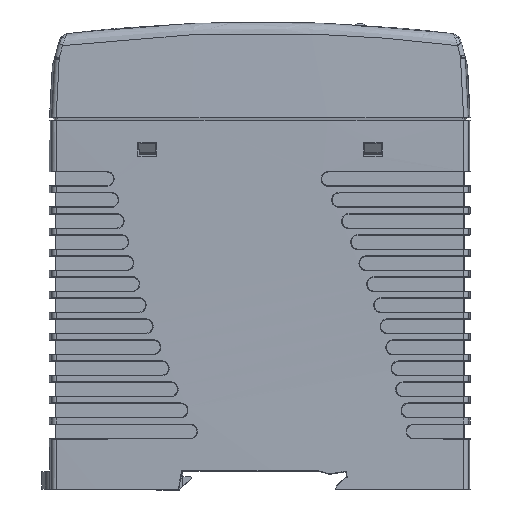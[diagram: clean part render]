
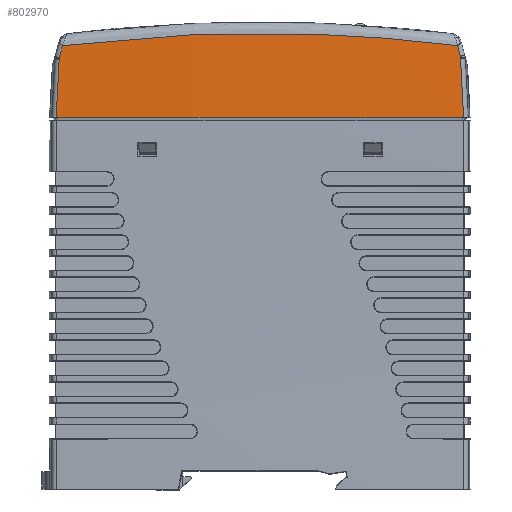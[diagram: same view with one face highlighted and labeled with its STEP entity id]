
A CAD part, left-side view. The second image highlights one B-rep face of the part: STEP entity #802970.
In plain terms, the highlighted conical face has half-angle 2 degrees and reference radius 2024.92 mm.
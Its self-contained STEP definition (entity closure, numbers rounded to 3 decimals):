
#794870=CARTESIAN_POINT('',(-26.728,42.956,52.95
));
#794880=VERTEX_POINT('',#794870);
#794910=CARTESIAN_POINT('',(-26.732,42.958,
52.823));
#794920=CARTESIAN_POINT('',(-26.73,42.955,52.872
));
#794930=CARTESIAN_POINT('',(-26.729,42.958,
52.908));
#794940=CARTESIAN_POINT('',(-26.728,42.956,52.95
));
#794950=B_SPLINE_CURVE_WITH_KNOTS('',3,(#794910,#794920,#794930,#794940)
,.UNSPECIFIED.,.F.,.F.,(4,4),(0.,1.),.UNSPECIFIED.);
#794960=CARTESIAN_POINT('',(-26.732,42.958,
52.823));
#794970=VERTEX_POINT('',#794960);
#794980=EDGE_CURVE('',#794970,#794880,#794950,.T.);
#795680=CARTESIAN_POINT('',(-26.725,42.952,53.021
));
#795690=VERTEX_POINT('',#795680);
#795740=CARTESIAN_POINT('',(-26.728,42.956,52.95
));
#795750=CARTESIAN_POINT('',(-26.727,42.955,
52.974));
#795760=CARTESIAN_POINT('',(-26.726,42.955,52.993
));
#795770=CARTESIAN_POINT('',(-26.725,42.952,53.021
));
#795780=B_SPLINE_CURVE_WITH_KNOTS('',3,(#795740,#795750,#795760,#795770)
,.UNSPECIFIED.,.F.,.F.,(4,4),(0.,1.),.UNSPECIFIED.);
#795790=EDGE_CURVE('',#794880,#795690,#795780,.T.);
#800030=CARTESIAN_POINT('',(1997.61,0.05,40.353));
#800040=DIRECTION('',(0.,0.,-1.));
#800050=DIRECTION('',(-1.,-0.022,0.));
#800060=AXIS2_PLACEMENT_3D('',#800030,#800040,#800050);
#800070=CIRCLE('',#800060,2025.233);
#800080=CARTESIAN_POINT('',(-27.154,-43.498,
40.353));
#800090=VERTEX_POINT('',#800080);
#800100=CARTESIAN_POINT('',(-27.154,43.598,40.353
));
#800110=VERTEX_POINT('',#800100);
#800120=EDGE_CURVE('',#800090,#800110,#800070,.T.);
#801690=CARTESIAN_POINT('',(-27.154,43.598,40.353
));
#801700=CARTESIAN_POINT('',(-27.107,43.526,
41.748));
#801710=CARTESIAN_POINT('',(-27.013,43.384,
44.531));
#801720=CARTESIAN_POINT('',(-26.872,43.17,
48.688));
#801730=CARTESIAN_POINT('',(-26.779,43.028,
51.447));
#801740=CARTESIAN_POINT('',(-26.732,42.958,
52.823));
#801750=B_SPLINE_CURVE_WITH_KNOTS('',3,(#801690,#801700,#801710,#801720,
#801730,#801740),.UNSPECIFIED.,.F.,.F.,(4,1,1,4),(0.,0.333,
0.667,1.),.UNSPECIFIED.);
#801760=EDGE_CURVE('',#800110,#794970,#801750,.T.);
#801830=CARTESIAN_POINT('',(1997.61,0.05,49.416));
#801840=DIRECTION('',(0.,0.,-1.));
#801850=DIRECTION('',(-1.,0.,0.));
#801860=AXIS2_PLACEMENT_3D('',#801830,#801840,#801850);
#801870=CONICAL_SURFACE('',#801860,2024.916,0.035);
#801880=ORIENTED_EDGE('',*,*,#801760,.F.);
#801890=ORIENTED_EDGE('',*,*,#794980,.F.);
#801900=ORIENTED_EDGE('',*,*,#795790,.F.);
#801910=CARTESIAN_POINT('',(-26.725,42.952,53.021
));
#801920=CARTESIAN_POINT('',(-26.724,42.948,
53.05));
#801930=CARTESIAN_POINT('',(-26.722,42.939,53.117
));
#801940=CARTESIAN_POINT('',(-26.72,42.924,
53.185));
#801950=CARTESIAN_POINT('',(-26.719,42.915,
53.223));
#801960=B_SPLINE_CURVE_WITH_KNOTS('',3,(#801910,#801920,#801930,#801940,
#801950),.UNSPECIFIED.,.F.,.F.,(4,1,4),(0.,0.432,1.),
.UNSPECIFIED.);
#801970=CARTESIAN_POINT('',(-26.719,42.915,
53.223));
#801980=VERTEX_POINT('',#801970);
#801990=EDGE_CURVE('',#795690,#801980,#801960,.T.);
#802000=ORIENTED_EDGE('',*,*,#801990,.F.);
#802010=CARTESIAN_POINT('',(-26.719,42.915,
53.223));
#802020=CARTESIAN_POINT('',(-26.711,42.839,53.508))
;
#802030=CARTESIAN_POINT('',(-26.694,42.686,54.078
));
#802040=CARTESIAN_POINT('',(-26.669,42.458,
54.933));
#802050=CARTESIAN_POINT('',(-26.652,42.306,
55.503));
#802060=CARTESIAN_POINT('',(-26.644,42.23,
55.788));
#802070=B_SPLINE_CURVE_WITH_KNOTS('',3,(#802010,#802020,#802030,#802040,
#802050,#802060),.UNSPECIFIED.,.F.,.F.,(4,1,1,4),(0.,0.333,
0.667,1.),.UNSPECIFIED.);
#802080=CARTESIAN_POINT('',(-26.644,42.23,
55.788));
#802090=VERTEX_POINT('',#802080);
#802100=EDGE_CURVE('',#801980,#802090,#802070,.T.);
#802110=ORIENTED_EDGE('',*,*,#802100,.F.);
#802120=CARTESIAN_POINT('',(-26.644,42.23,
55.788));
#802130=CARTESIAN_POINT('',(-26.758,35.234,56.673
));
#802140=CARTESIAN_POINT('',(-26.888,24.696,
57.67));
#802150=CARTESIAN_POINT('',(-26.976,10.597,58.336)
);
#802160=CARTESIAN_POINT('',(-26.998,0.001,
58.503));
#802170=CARTESIAN_POINT('',(-26.975,-10.593,
58.337));
#802180=CARTESIAN_POINT('',(-26.887,-24.684,
57.672));
#802190=CARTESIAN_POINT('',(-26.757,-35.217,
56.676));
#802200=CARTESIAN_POINT('',(-26.642,-42.209,
55.793));
#802210=B_SPLINE_CURVE_WITH_KNOTS('',3,(#802120,#802130,#802140,#802150,
#802160,#802170,#802180,#802190,#802200),.UNSPECIFIED.,.F.,.F.,(4,1,1,1,
1,1,4),(0.,0.25,0.375,0.5,
0.625,0.75,1.),.UNSPECIFIED.);
#802220=CARTESIAN_POINT('',(-26.642,-42.209,
55.793));
#802230=VERTEX_POINT('',#802220);
#802240=EDGE_CURVE('',#802090,#802230,#802210,.T.);
#802250=ORIENTED_EDGE('',*,*,#802240,.F.);
#802260=CARTESIAN_POINT('',(-26.642,-42.209,
55.793));
#802270=CARTESIAN_POINT('',(-26.648,-42.266,55.573
));
#802280=CARTESIAN_POINT('',(-26.661,-42.38,
55.133));
#802290=CARTESIAN_POINT('',(-26.681,-42.55,
54.474));
#802300=CARTESIAN_POINT('',(-26.694,-42.664,
54.034));
#802310=CARTESIAN_POINT('',(-26.7,-42.72,
53.815));
#802320=B_SPLINE_CURVE_WITH_KNOTS('',3,(#802260,#802270,#802280,#802290,
#802300,#802310),.UNSPECIFIED.,.F.,.F.,(4,1,1,4),(0.,0.333,
0.667,1.),.UNSPECIFIED.);
#802330=CARTESIAN_POINT('',(-26.7,-42.72,
53.815));
#802340=VERTEX_POINT('',#802330);
#802350=EDGE_CURVE('',#802230,#802340,#802320,.T.);
#802360=ORIENTED_EDGE('',*,*,#802350,.F.);
#802370=CARTESIAN_POINT('',(-26.7,-42.72,
53.815));
#802380=CARTESIAN_POINT('',(-26.702,-42.736,
53.753));
#802390=CARTESIAN_POINT('',(-26.704,-42.752,
53.692));
#802400=CARTESIAN_POINT('',(-26.706,-42.768,
53.631));
#802410=B_SPLINE_CURVE_WITH_KNOTS('',3,(#802370,#802380,#802390,#802400)
,.UNSPECIFIED.,.F.,.F.,(4,4),(0.,1.),.UNSPECIFIED.);
#802420=CARTESIAN_POINT('',(-26.706,-42.768,
53.631));
#802430=VERTEX_POINT('',#802420);
#802440=EDGE_CURVE('',#802340,#802430,#802410,.T.);
#802450=ORIENTED_EDGE('',*,*,#802440,.F.);
#802460=CARTESIAN_POINT('',(-26.706,-42.768,
53.631));
#802470=CARTESIAN_POINT('',(-26.706,-42.772,53.616
));
#802480=CARTESIAN_POINT('',(-26.707,-42.779,
53.586));
#802490=CARTESIAN_POINT('',(-26.708,-42.791,
53.542));
#802500=CARTESIAN_POINT('',(-26.709,-42.798,
53.512));
#802510=CARTESIAN_POINT('',(-26.71,-42.802,
53.498));
#802520=B_SPLINE_CURVE_WITH_KNOTS('',3,(#802460,#802470,#802480,#802490,
#802500,#802510),.UNSPECIFIED.,.F.,.F.,(4,1,1,4),(0.,0.333,
0.667,1.),.UNSPECIFIED.);
#802530=CARTESIAN_POINT('',(-26.71,-42.802,
53.498));
#802540=VERTEX_POINT('',#802530);
#802550=EDGE_CURVE('',#802430,#802540,#802520,.T.);
#802560=ORIENTED_EDGE('',*,*,#802550,.F.);
#802570=CARTESIAN_POINT('',(-26.71,-42.802,
53.498));
#802580=CARTESIAN_POINT('',(-26.71,-42.807,
53.479));
#802590=CARTESIAN_POINT('',(-26.711,-42.815,
53.442));
#802600=CARTESIAN_POINT('',(-26.713,-42.824,
53.391));
#802610=CARTESIAN_POINT('',(-26.714,-42.829,
53.355));
#802620=CARTESIAN_POINT('',(-26.715,-42.832,
53.334));
#802630=CARTESIAN_POINT('',(-26.715,-42.834,
53.324));
#802640=CARTESIAN_POINT('',(-26.715,-42.835,
53.313));
#802650=CARTESIAN_POINT('',(-26.716,-42.836,
53.303));
#802660=CARTESIAN_POINT('',(-26.716,-42.837,
53.293));
#802670=CARTESIAN_POINT('',(-26.716,-42.838,
53.281));
#802680=CARTESIAN_POINT('',(-26.717,-42.84,
53.261));
#802690=CARTESIAN_POINT('',(-26.718,-42.84,
53.245));
#802700=CARTESIAN_POINT('',(-26.718,-42.841,
53.234));
#802710=B_SPLINE_CURVE_WITH_KNOTS('',3,(#802570,#802580,#802590,#802600,
#802610,#802620,#802630,#802640,#802650,#802660,#802670,#802680,#802690,
#802700),.UNSPECIFIED.,.F.,.F.,(4,1,1,1,1,1,1,1,1,1,1,4),(0.,
0.199,0.398,0.55,0.588,
0.626,0.664,0.701,0.739,
0.776,0.851,1.),.UNSPECIFIED.);
#802720=CARTESIAN_POINT('',(-26.718,-42.841,
53.234));
#802730=VERTEX_POINT('',#802720);
#802740=EDGE_CURVE('',#802540,#802730,#802710,.T.);
#802750=ORIENTED_EDGE('',*,*,#802740,.F.);
#802760=CARTESIAN_POINT('',(-26.718,-42.841,
53.234));
#802770=CARTESIAN_POINT('',(-26.719,-42.843,
53.193));
#802780=CARTESIAN_POINT('',(-26.721,-42.841,
53.158));
#802790=CARTESIAN_POINT('',(-26.722,-42.843,53.111
));
#802800=B_SPLINE_CURVE_WITH_KNOTS('',3,(#802760,#802770,#802780,#802790)
,.UNSPECIFIED.,.F.,.F.,(4,4),(0.,1.),.UNSPECIFIED.);
#802810=CARTESIAN_POINT('',(-26.722,-42.843,53.111
));
#802820=VERTEX_POINT('',#802810);
#802830=EDGE_CURVE('',#802730,#802820,#802800,.T.);
#802840=ORIENTED_EDGE('',*,*,#802830,.F.);
#802850=CARTESIAN_POINT('',(-26.722,-42.843,53.111
));
#802860=CARTESIAN_POINT('',(-26.77,-42.916,
51.687));
#802870=CARTESIAN_POINT('',(-26.867,-43.062,
48.843));
#802880=CARTESIAN_POINT('',(-27.011,-43.28,44.59
));
#802890=CARTESIAN_POINT('',(-27.106,-43.425,
41.764));
#802900=CARTESIAN_POINT('',(-27.154,-43.498,
40.353));
#802910=B_SPLINE_CURVE_WITH_KNOTS('',3,(#802850,#802860,#802870,#802880,
#802890,#802900),.UNSPECIFIED.,.F.,.F.,(4,1,1,4),(0.,0.333,
0.667,1.),.UNSPECIFIED.);
#802920=EDGE_CURVE('',#802820,#800090,#802910,.T.);
#802930=ORIENTED_EDGE('',*,*,#802920,.F.);
#802940=ORIENTED_EDGE('',*,*,#800120,.F.);
#802950=EDGE_LOOP('',(#802940,#802930,#802840,#802750,#802560,#802450,
#802360,#802250,#802110,#802000,#801900,#801890,#801880));
#802960=FACE_OUTER_BOUND('',#802950,.T.);
#802970=ADVANCED_FACE('',(#802960),#801870,.T.);
